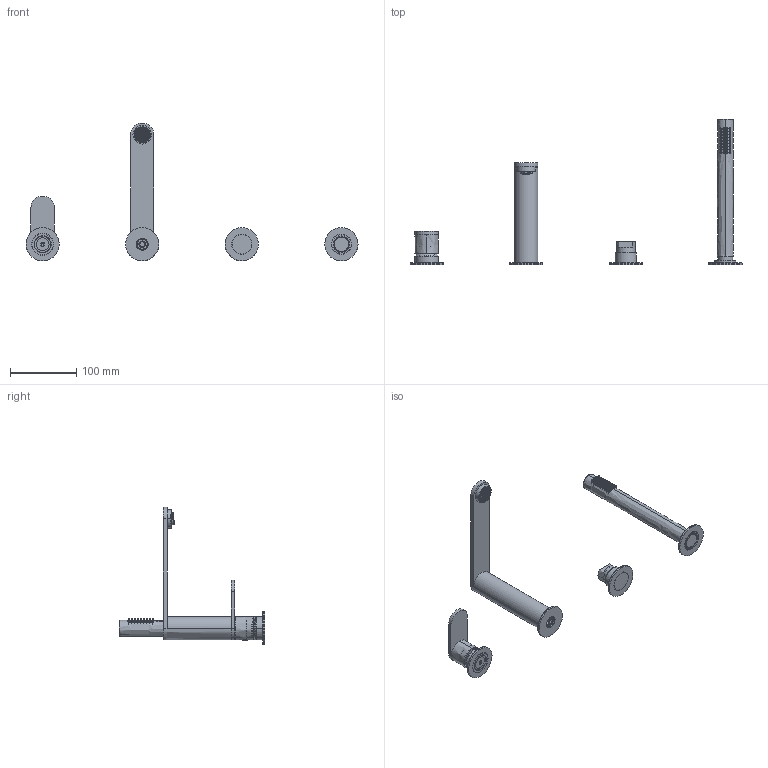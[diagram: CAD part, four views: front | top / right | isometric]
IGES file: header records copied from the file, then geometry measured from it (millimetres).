
Start section:  PTC IGES file: 79029.igs
Global section: file name: 79029.igs; native system: Creo Parametric by PTC Inc.; preprocessor: 2025443; author: carloff; organization: Unknown; date: 20261005.135820; units: millimetre
Bounding box: 500 x 219 x 207.5 mm (x, y, z)
Surface area: 125188.2 mm2 (no closed solid volume)
Topology: 0 solids, 0 shells, 5195 faces, 25818 edges, 25758 vertices
Faces by surface type: bspline 3511, revolution 1684
